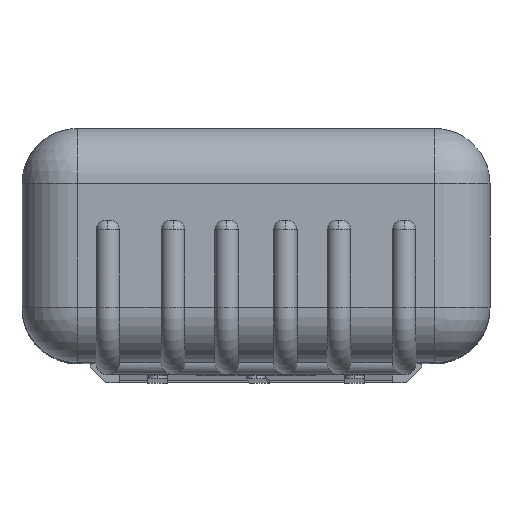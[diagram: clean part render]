
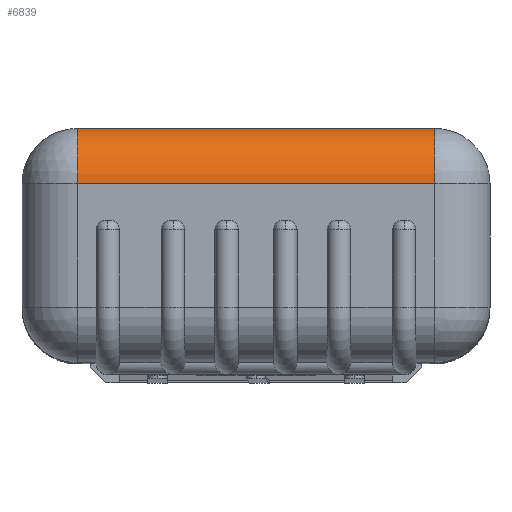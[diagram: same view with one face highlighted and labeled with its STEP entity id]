
A CAD part, top view. The second image highlights one B-rep face of the part: STEP entity #6839.
In plain terms, the highlighted cylindrical face has radius 8.992 mm (diameter 17.983 mm), a partial arc.
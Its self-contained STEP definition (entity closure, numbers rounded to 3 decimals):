
#720 = CARTESIAN_POINT ( 'NONE',  ( -29.108, 38.1, -60.858 ) ) ;
#1408 = CYLINDRICAL_SURFACE ( 'NONE', #11395, 8.992 ) ;
#1930 = DIRECTION ( 'NONE',  ( 1., 0., 0. ) ) ;
#2893 = VECTOR ( 'NONE', #23459, 1000. ) ;
#3880 = LINE ( 'NONE', #29455, #20012 ) ;
#4574 = DIRECTION ( 'NONE',  ( 0., 0., 1. ) ) ;
#5160 = CIRCLE ( 'NONE', #40139, 8.992 ) ;
#6839 = ADVANCED_FACE ( 'NONE', ( #38012 ), #1408, .T. ) ;
#8984 = CARTESIAN_POINT ( 'NONE',  ( -29.108, 29.108, -69.85 ) ) ;
#9241 = EDGE_CURVE ( 'NONE', #35124, #29733, #30352, .T. ) ;
#9658 = ORIENTED_EDGE ( 'NONE', *, *, #22686, .F. ) ;
#11395 = AXIS2_PLACEMENT_3D ( 'NONE', #25157, #42333, #4574 ) ;
#13135 = EDGE_LOOP ( 'NONE', ( #20154, #20320, #9658, #22429 ) ) ;
#14298 = CARTESIAN_POINT ( 'NONE',  ( -29.108, 29.108, -60.858 ) ) ;
#14713 = CARTESIAN_POINT ( 'NONE',  ( 29.108, 29.108, -60.858 ) ) ;
#17750 = DIRECTION ( 'NONE',  ( 0., 0., 1. ) ) ;
#18158 = DIRECTION ( 'NONE',  ( 0., 0., -1. ) ) ;
#19211 = CARTESIAN_POINT ( 'NONE',  ( 29.108, 29.108, -69.85 ) ) ;
#20012 = VECTOR ( 'NONE', #1930, 1000. ) ;
#20154 = ORIENTED_EDGE ( 'NONE', *, *, #25000, .T. ) ;
#20320 = ORIENTED_EDGE ( 'NONE', *, *, #28318, .F. ) ;
#22429 = ORIENTED_EDGE ( 'NONE', *, *, #9241, .F. ) ;
#22686 = EDGE_CURVE ( 'NONE', #29733, #24537, #28163, .T. ) ;
#23459 = DIRECTION ( 'NONE',  ( -1., 0., 0. ) ) ;
#24537 = VERTEX_POINT ( 'NONE', #8984 ) ;
#25000 = EDGE_CURVE ( 'NONE', #35124, #43951, #5160, .T. ) ;
#25157 = CARTESIAN_POINT ( 'NONE',  ( 0., 29.108, -60.858 ) ) ;
#28163 = CIRCLE ( 'NONE', #31482, 8.992 ) ;
#28318 = EDGE_CURVE ( 'NONE', #24537, #43951, #3880, .T. ) ;
#29455 = CARTESIAN_POINT ( 'NONE',  ( 38.1, 29.108, -69.85 ) ) ;
#29733 = VERTEX_POINT ( 'NONE', #720 ) ;
#30352 = LINE ( 'NONE', #30549, #2893 ) ;
#30549 = CARTESIAN_POINT ( 'NONE',  ( 0., 38.1, -60.858 ) ) ;
#31482 = AXIS2_PLACEMENT_3D ( 'NONE', #14298, #38361, #17750 ) ;
#35073 = CARTESIAN_POINT ( 'NONE',  ( 29.108, 38.1, -60.858 ) ) ;
#35124 = VERTEX_POINT ( 'NONE', #35073 ) ;
#38012 = FACE_OUTER_BOUND ( 'NONE', #13135, .T. ) ;
#38361 = DIRECTION ( 'NONE',  ( -1., 0., 0. ) ) ;
#38772 = DIRECTION ( 'NONE',  ( -1., 0., 0. ) ) ;
#40139 = AXIS2_PLACEMENT_3D ( 'NONE', #14713, #38772, #18158 ) ;
#42333 = DIRECTION ( 'NONE',  ( -1., 0., 0. ) ) ;
#43951 = VERTEX_POINT ( 'NONE', #19211 ) ;
